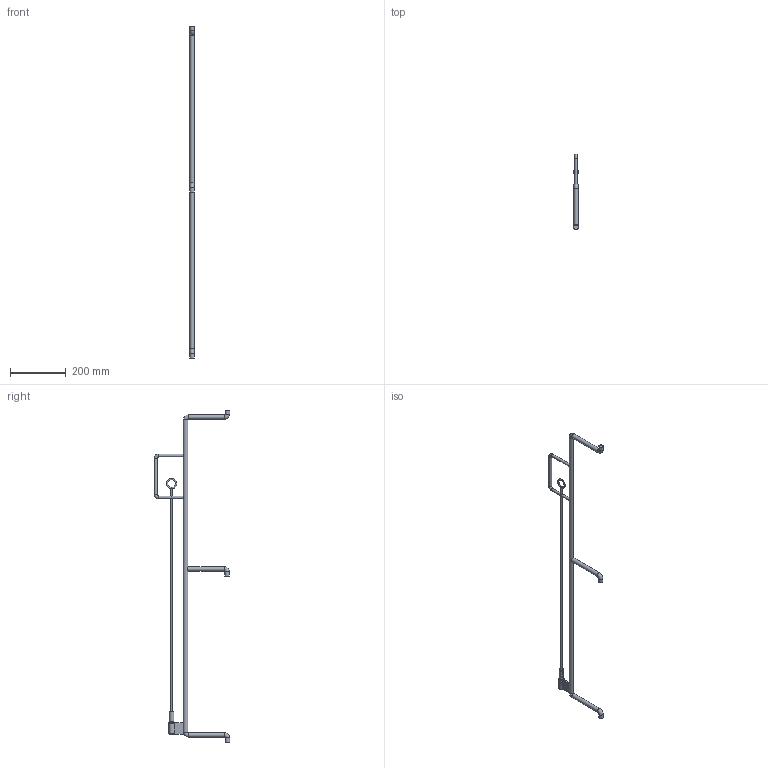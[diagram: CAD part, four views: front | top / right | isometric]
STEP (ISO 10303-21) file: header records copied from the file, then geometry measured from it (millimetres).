
FILE_DESCRIPTION(/* description */ (''),/* implementation_level */ '2;1');
FILE_NAME(/* name */ 'CC_16_1200_FER_S_18_1.stp',/* time_stamp */ '2018-11-12T22:17:41+01:00',/* author */ (''),/* organization */ (''),/* preprocessor_version */ 'ST-DEVELOPER v16',/* originating_system */ 'SIEMENS PLM Software NX 10.0',/* authorisation */ '');
FILE_SCHEMA (('CONFIG_CONTROL_DESIGN'));
Length unit declared in the file: millimetre
Products named in the file (6): SPE_4_16-FER_S_18_3; PIASTRA_COLLEGAMENTO; CILINDRO_20X40; PERNO; BCG_16_40_FER_S_18_2; CC_16_1200_FER_S_18_1
Assembly tree (6 placements, depth 2):
  CC_16_1200_FER_S_18_1
    BCG_16_40_FER_S_18_2
    PERNO
    CILINDRO_20X40
    PIASTRA_COLLEGAMENTO
    SPE_4_16-FER_S_18_3  x2
Bounding box: 20 x 270.11 x 1190 mm (x, y, z)
Volume: 401871.1 mm3; surface area: 125099.8 mm2
Topology: 11 solids, 11 shells, 79 faces, 147 edges, 90 vertices
Faces by surface type: cylinder 31, plane 31, torus 17
Full cylindrical faces by diameter (mm): 3.975 x1, 4 x4, 6 x2, 8 x3, 10 x3, 11.1 x1, 12 x2, 14.9 x1, 16 x9, 20 x1
Entity records: 2946 total; most frequent: CARTESIAN_POINT 987, DIRECTION 284, ORIENTED_EDGE 172, EDGE_LOOP 136, AXIS2_PLACEMENT_3D 132, FACE_BOUND 115, EDGE_CURVE 86, VERTEX_POINT 79
